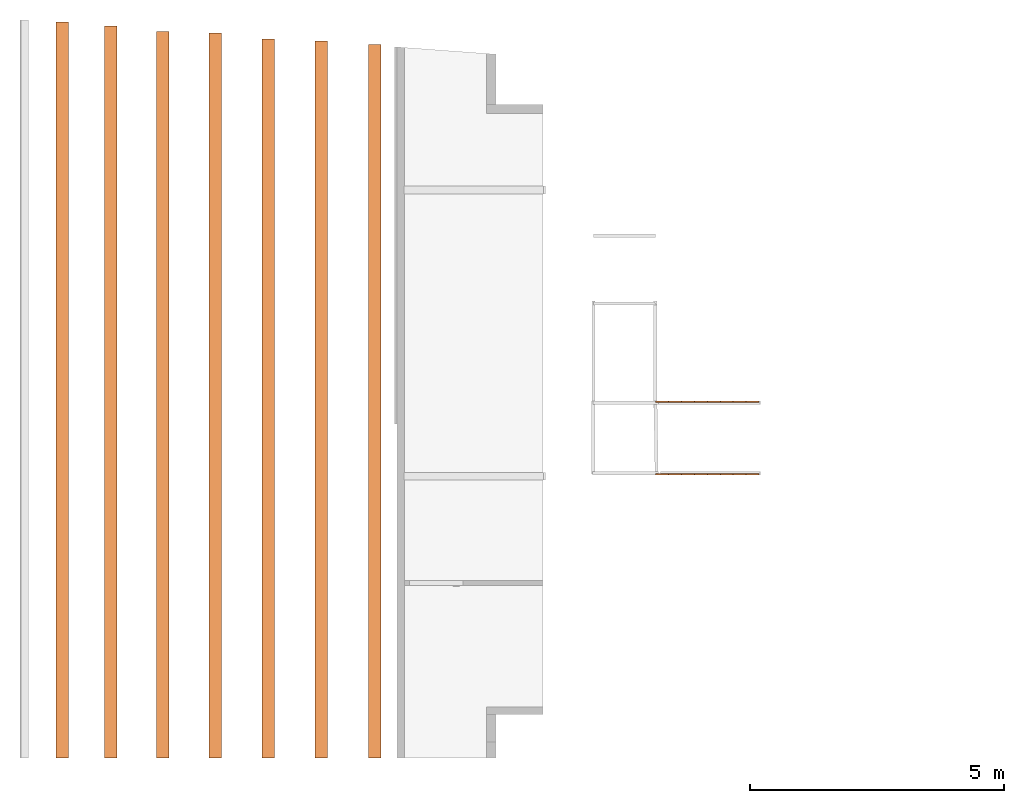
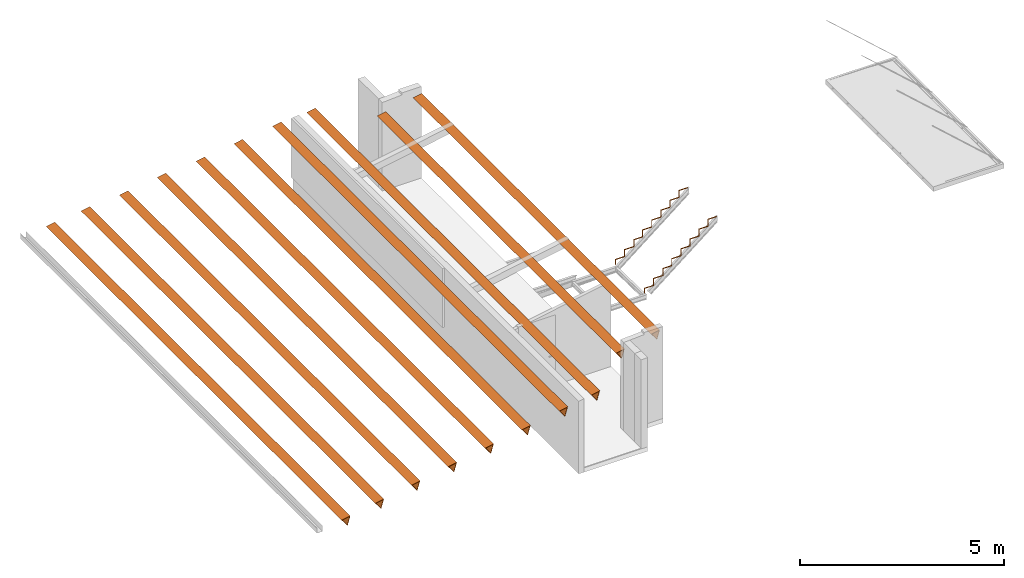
# One storey, part 4 of 4: 2 proxies.
"""IFC2X3 building model written with IfcOpenShell, lengths in metres."""

from ifc_helpers import new_model, entity, si_unit, converted_unit, derived_unit, direction, frame, origin, place, context, subcontext, project, spatial, polyline, outline, extrude, source, transform, mapped, material, material_list, type_object, type_shapes, element, save


model = new_model("IFC2X3")

# Units and contexts
model_context = context("Model", 3, precision=1e-05, world=origin(), true_north=direction((6.12303176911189e-17, 1.0)))
body_context = subcontext(model_context, "Body", "Model", "MODEL_VIEW")
ifc_project = project(units=[si_unit("LENGTHUNIT", "METRE"), si_unit("AREAUNIT", "SQUARE_METRE"), si_unit("VOLUMEUNIT", "CUBIC_METRE"), converted_unit("PLANEANGLEUNIT", "DEGREE", entity("IfcRatioMeasure", 0.0174532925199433), si_unit("PLANEANGLEUNIT", "RADIAN"), dimensions=[0, 0, 0, 0, 0, 0, 0]), si_unit("MASSUNIT", "GRAM", prefix="KILO"), derived_unit("MASSDENSITYUNIT", [(si_unit("MASSUNIT", "GRAM", prefix="KILO"), 1), (si_unit("LENGTHUNIT", "METRE"), -3)]), derived_unit("MOMENTOFINERTIAUNIT", [(si_unit("LENGTHUNIT", "METRE"), 4)]), si_unit("TIMEUNIT", "SECOND"), si_unit("FREQUENCYUNIT", "HERTZ"), si_unit("THERMODYNAMICTEMPERATUREUNIT", "DEGREE_CELSIUS"), derived_unit("THERMALTRANSMITTANCEUNIT", [(si_unit("MASSUNIT", "GRAM", prefix="KILO"), 1), (si_unit("THERMODYNAMICTEMPERATUREUNIT", "KELVIN"), -1), (si_unit("TIMEUNIT", "SECOND"), -3)]), derived_unit("VOLUMETRICFLOWRATEUNIT", [(si_unit("LENGTHUNIT", "METRE"), 3), (si_unit("TIMEUNIT", "SECOND"), -1)]), si_unit("ELECTRICCURRENTUNIT", "AMPERE"), si_unit("ELECTRICVOLTAGEUNIT", "VOLT"), si_unit("POWERUNIT", "WATT"), si_unit("FORCEUNIT", "NEWTON", prefix="KILO"), si_unit("ILLUMINANCEUNIT", "LUX"), si_unit("LUMINOUSFLUXUNIT", "LUMEN"), si_unit("LUMINOUSINTENSITYUNIT", "CANDELA"), derived_unit("USERDEFINED", [(si_unit("MASSUNIT", "GRAM", prefix="KILO"), -1), (si_unit("LENGTHUNIT", "METRE"), -2), (si_unit("TIMEUNIT", "SECOND"), 3), (si_unit("LUMINOUSFLUXUNIT", "LUMEN"), 1)]), derived_unit("LINEARVELOCITYUNIT", [(si_unit("LENGTHUNIT", "METRE"), 1), (si_unit("TIMEUNIT", "SECOND"), -1)]), si_unit("PRESSUREUNIT", "PASCAL"), derived_unit("USERDEFINED", [(si_unit("LENGTHUNIT", "METRE"), -2), (si_unit("MASSUNIT", "GRAM", prefix="KILO"), 1), (si_unit("TIMEUNIT", "SECOND"), -2)]), derived_unit("LINEARFORCEUNIT", [(si_unit("MASSUNIT", "GRAM", prefix="KILO"), 1), (si_unit("LENGTHUNIT", "METRE"), 1), (si_unit("TIMEUNIT", "SECOND"), -2), (si_unit("LENGTHUNIT", "METRE"), -1)]), derived_unit("PLANARFORCEUNIT", [(si_unit("MASSUNIT", "GRAM", prefix="KILO"), 1), (si_unit("LENGTHUNIT", "METRE"), 1), (si_unit("TIMEUNIT", "SECOND"), -2), (si_unit("LENGTHUNIT", "METRE"), -2)])], contexts=[model_context])

# Site, building, storey
site_placement = place(None, origin())
site = spatial("IfcSite", under=ifc_project, at=site_placement, Name="Superficie", CompositionType="ELEMENT")
building_placement = place(site_placement, origin())
building = spatial("IfcBuilding", under=site, at=building_placement, Name="Telegestiones", CompositionType="ELEMENT")
storey_placement = place(building_placement, frame((0.0, 0.0, 3.21)))
storey = spatial("IfcBuildingStorey", under=building, at=storey_placement, Name="Entrepiso_NPT", CompositionType="ELEMENT", Elevation=3.21)

# Proxies
ifc_material_1 = material(Name="391846a9_3117_44ae_832e_53e94a79c5b7")
ifc_material_list_1 = material_list([ifc_material_1, ifc_material_1])
ifc_material_list_2 = material_list([ifc_material_1, ifc_material_1])
building_element_proxy_type_1 = type_object("IfcBuildingElementProxyType", Name="Armazón estructural 7:Armazón estructural 7", PredefinedType="NOTDEFINED", material=ifc_material_list_2)
shared_shape_1 = source(origin(), body_context, "Body", "SweptSolid", [
    extrude(outline(polyline([(0.823380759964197, -0.775788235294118), (1.07438075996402, -0.775788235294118), (1.07438075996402, -0.76578823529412), (0.833380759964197, -0.76578823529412), (0.833380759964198, -0.560188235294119), (0.577235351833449, -0.560188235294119), (0.57723535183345, -0.354588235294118), (0.321089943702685, -0.354588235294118), (0.321089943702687, -0.148988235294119), (0.0649445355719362, -0.148988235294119), (0.0649445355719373, 0.0566117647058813), (-0.191200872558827, 0.0566117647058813), (-0.191200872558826, 0.262211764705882), (-0.440063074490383, 0.262211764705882), (-0.440063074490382, 0.467811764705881), (-0.70349168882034, 0.467811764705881), (-0.703491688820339, 0.673411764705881), (-0.959085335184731, 0.673411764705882), (-0.959085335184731, 0.819011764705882), (-0.969085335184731, 0.819011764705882), (-0.969085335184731, 0.663411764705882), (-0.713491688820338, 0.663411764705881), (-0.713491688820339, 0.457811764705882), (-0.450063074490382, 0.457811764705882), (-0.450063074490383, 0.252211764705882), (-0.201200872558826, 0.252211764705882), (-0.201200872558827, 0.0466117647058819), (0.0549445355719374, 0.0466117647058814), (0.0549445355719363, -0.158988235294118), (0.311089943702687, -0.158988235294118), (0.311089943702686, -0.364588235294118), (0.56723535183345, -0.364588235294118), (0.567235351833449, -0.570188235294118), (0.823380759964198, -0.570188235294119), (0.823380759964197, -0.775788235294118)])), frame((8.53843186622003, 1.49634260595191, 4.10861176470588), z_axis=(0.0, 1.0, 0.0), x_axis=(1.0, 0.0, 0.0)), (0.0, 0.0, 1.0), 0.0299999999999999),
    extrude(outline(polyline([(0.823380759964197, -0.775788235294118), (1.07438075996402, -0.775788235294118), (1.07438075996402, -0.765788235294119), (0.833380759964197, -0.765788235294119), (0.833380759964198, -0.560188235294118), (0.577235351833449, -0.560188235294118), (0.57723535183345, -0.354588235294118), (0.321089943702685, -0.354588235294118), (0.321089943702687, -0.148988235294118), (0.0649445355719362, -0.148988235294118), (0.0649445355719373, 0.0566117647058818), (-0.191200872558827, 0.0566117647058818), (-0.191200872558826, 0.262211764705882), (-0.440063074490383, 0.262211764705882), (-0.440063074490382, 0.467811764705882), (-0.70349168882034, 0.467811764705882), (-0.703491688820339, 0.673411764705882), (-0.959085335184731, 0.673411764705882), (-0.959085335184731, 0.819011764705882), (-0.969085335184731, 0.819011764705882), (-0.969085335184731, 0.663411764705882), (-0.713491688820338, 0.663411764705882), (-0.713491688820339, 0.457811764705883), (-0.450063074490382, 0.457811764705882), (-0.450063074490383, 0.252211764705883), (-0.201200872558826, 0.252211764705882), (-0.201200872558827, 0.0466117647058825), (0.0549445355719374, 0.0466117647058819), (0.0549445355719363, -0.158988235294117), (0.311089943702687, -0.158988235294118), (0.311089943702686, -0.364588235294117), (0.56723535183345, -0.364588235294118), (0.567235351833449, -0.570188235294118), (0.823380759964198, -0.570188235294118), (0.823380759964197, -0.775788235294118)])), frame((8.53843186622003, 2.92175008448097, 4.10861176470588), z_axis=(0.0, 1.0, 0.0), x_axis=(1.0, 0.0, 0.0)), (0.0, 0.0, 1.0), 0.0300000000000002),
])
type_shapes(building_element_proxy_type_1, [shared_shape_1])
proxy_1_placement = place(storey_placement, frame((0.0, 0.0, -3.21)))
element("IfcBuildingElementProxy", 1, at=proxy_1_placement, inside=storey, type_object=building_element_proxy_type_1, material=ifc_material_list_1, Name="Armazón estructural 7:Armazón estructural 7", ObjectType="Armazón estructural 7:Armazón estructural 7", context=body_context, shape_type="MappedRepresentation", body=[
    mapped(shared_shape_1, transform((0.0, 0.0, 0.0), scale=1.0)),
])
ifc_material_2 = material(Name="Acero")
ifc_material_list_3 = material_list([ifc_material_2, ifc_material_2, ifc_material_2, ifc_material_2, ifc_material_2, ifc_material_2, ifc_material_2, ifc_material_2, ifc_material_2, ifc_material_2])
ifc_material_list_4 = material_list([ifc_material_2, ifc_material_2, ifc_material_2, ifc_material_2, ifc_material_2, ifc_material_2, ifc_material_2, ifc_material_2, ifc_material_2, ifc_material_2])
building_element_proxy_type_2 = type_object("IfcBuildingElementProxyType", Name="Armazón estructural 10:Armazón estructural 10", PredefinedType="NOTDEFINED", material=ifc_material_list_4)
shared_shape_2 = source(origin(), body_context, "Body", "SweptSolid", [
    extrude(outline(polyline([(-0.130437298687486, -0.074535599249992), (0.149071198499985, -0.074535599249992), (-0.018633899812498, 0.149071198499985), (-0.130437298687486, -0.074535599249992)]), holes=[polyline([(0.129071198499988, -0.0645355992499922), (-0.11425695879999, -0.0645355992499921), (-0.0169256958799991, 0.13012692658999), (0.129071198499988, -0.0645355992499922)])]), frame((-4.1054246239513, -4.086392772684, 3.96698472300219), z_axis=(0.0, 1.0, 0.0), x_axis=(-0.281689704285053, 0.0, -0.959505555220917)), (0.0, 0.0, 1.0), 14.5085655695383),
    extrude(outline(polyline([(-0.130437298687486, -0.0745355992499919), (0.149071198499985, -0.0745355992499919), (-0.0186338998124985, 0.149071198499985), (-0.130437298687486, -0.0745355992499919)]), holes=[polyline([(0.129071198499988, -0.0645355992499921), (-0.11425695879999, -0.0645355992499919), (-0.0169256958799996, 0.13012692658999), (0.129071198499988, -0.0645355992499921)])]), frame((-3.15362916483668, -4.086392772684, 4.13900790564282), z_axis=(0.0, 1.0, 0.0), x_axis=(-0.281689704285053, 0.0, -0.959505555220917)), (0.0, 0.0, 1.0), 14.4364503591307),
    extrude(outline(polyline([(-0.130437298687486, -0.0745355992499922), (0.149071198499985, -0.0745355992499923), (-0.0186338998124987, 0.149071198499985), (-0.130437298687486, -0.0745355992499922)]), holes=[polyline([(0.129071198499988, -0.0645355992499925), (-0.114256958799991, -0.0645355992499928), (-0.0169256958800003, 0.13012692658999), (0.129071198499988, -0.0645355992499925)])]), frame((-2.13007850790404, -4.086392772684, 4.3232470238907), z_axis=(0.0, 1.0, 0.0), x_axis=(-0.281689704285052, 0.0, -0.959505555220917)), (0.0, 0.0, 1.0), 14.3282775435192),
    extrude(outline(polyline([(-0.130437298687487, -0.0745355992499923), (0.149071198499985, -0.0745355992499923), (-0.0186338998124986, 0.149071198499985), (-0.130437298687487, -0.0745355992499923)]), holes=[polyline([(0.129071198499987, -0.0645355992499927), (-0.114256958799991, -0.0645355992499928), (-0.0169256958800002, 0.13012692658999), (0.129071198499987, -0.0645355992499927)])]), frame((-1.08684418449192, -4.086392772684, 4.51102920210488), z_axis=(0.0, 1.0, 0.0), x_axis=(-0.281689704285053, 0.0, -0.959505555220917)), (0.0, 0.0, 1.0), 14.2922199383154),
    extrude(outline(polyline([(-0.130437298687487, -0.0745355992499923), (0.149071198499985, -0.0745355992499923), (-0.0186338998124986, 0.149071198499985), (-0.130437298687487, -0.0745355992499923)]), holes=[polyline([(0.129071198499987, -0.0645355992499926), (-0.114256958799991, -0.0645355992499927), (-0.0169256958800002, 0.13012692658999), (0.129071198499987, -0.0645355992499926)])]), frame((-0.0436098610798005, -4.086392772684, 4.69881138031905), z_axis=(0.0, 1.0, 0.0), x_axis=(-0.281689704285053, 0.0, -0.959505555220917)), (0.0, 0.0, 1.0), 14.1768356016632),
    extrude(outline(polyline([(-0.130437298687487, -0.0745355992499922), (0.149071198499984, -0.0745355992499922), (-0.0186338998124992, 0.149071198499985), (-0.130437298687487, -0.0745355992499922)]), holes=[polyline([(0.129071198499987, -0.0645355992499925), (-0.114256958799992, -0.0645355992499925), (-0.0169256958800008, 0.13012692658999), (0.129071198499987, -0.0645355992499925)])]), frame((0.999624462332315, -4.086392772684, 4.88659355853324), z_axis=(0.0, 1.0, 0.0), x_axis=(-0.281689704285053, 0.0, -0.959505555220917)), (0.0, 0.0, 1.0), 14.1335664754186),
    extrude(outline(polyline([(-0.130437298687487, -0.0745355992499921), (0.149071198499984, -0.0745355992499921), (-0.0186338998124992, 0.149071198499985), (-0.130437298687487, -0.0745355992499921)]), holes=[polyline([(0.129071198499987, -0.0645355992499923), (-0.114256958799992, -0.0645355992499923), (-0.0169256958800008, 0.13012692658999), (0.129071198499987, -0.0645355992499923)])]), frame((2.05779849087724, -4.086392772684, 5.07706488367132), z_axis=(0.0, 1.0, 0.0), x_axis=(-0.281689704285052, 0.0, -0.959505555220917)), (0.0, 0.0, 1.0), 14.0686627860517),
    extrude(outline(polyline([(-0.130437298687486, -0.0745355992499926), (0.149071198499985, -0.0745355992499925), (-0.0186338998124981, 0.149071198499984), (-0.130437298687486, -0.0745355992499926)]), holes=[polyline([(0.129071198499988, -0.0645355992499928), (-0.114256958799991, -0.064535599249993), (-0.0169256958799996, 0.13012692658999), (0.129071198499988, -0.0645355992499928)])]), frame((2.96324714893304, -4.086392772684, 5.24004564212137), z_axis=(0.0, 1.0, 0.0), x_axis=(-0.281689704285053, 0.0, -0.959505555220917)), (0.0, 0.0, 1.0), 13.9596677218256),
    extrude(outline(polyline([(-0.130437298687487, -0.0745355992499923), (0.149071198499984, -0.0745355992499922), (-0.0186338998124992, 0.149071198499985), (-0.130437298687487, -0.0745355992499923)]), holes=[polyline([(0.129071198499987, -0.0645355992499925), (-0.114256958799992, -0.0645355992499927), (-0.0169256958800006, 0.130126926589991), (0.129071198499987, -0.0645355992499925)])]), frame((4.22300180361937, -3.11988334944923, 5.46680147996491), z_axis=(0.0, 1.0, 0.0), x_axis=(-0.281689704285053, 0.0, -0.959505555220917)), (0.0, 0.0, 1.0), 11.7234905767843),
    extrude(outline(polyline([(-0.130437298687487, -0.0745355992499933), (0.149071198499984, -0.0745355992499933), (-0.0186338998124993, 0.149071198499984), (-0.130437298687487, -0.0745355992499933)]), holes=[polyline([(0.129071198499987, -0.0645355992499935), (-0.114256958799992, -0.0645355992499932), (-0.0169256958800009, 0.13012692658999), (0.129071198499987, -0.0645355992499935)])]), frame((5.24655246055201, -3.07639277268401, 5.65104059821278), z_axis=(0.0, 1.0, 0.0), x_axis=(-0.281689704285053, 0.0, -0.959505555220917)), (0.0, 0.0, 1.0), 11.6800000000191),
])
type_shapes(building_element_proxy_type_2, [shared_shape_2])
proxy_2_placement = place(storey_placement, frame((0.0, 0.0, -3.21)))
element("IfcBuildingElementProxy", 2, at=proxy_2_placement, inside=storey, type_object=building_element_proxy_type_2, material=ifc_material_list_3, Name="Armazón estructural 10:Armazón estructural 10", ObjectType="Armazón estructural 10:Armazón estructural 10", context=body_context, shape_type="MappedRepresentation", body=[
    mapped(shared_shape_2, transform((0.0, 0.0, 0.0), scale=1.0)),
])

save(model, "model.ifc")
